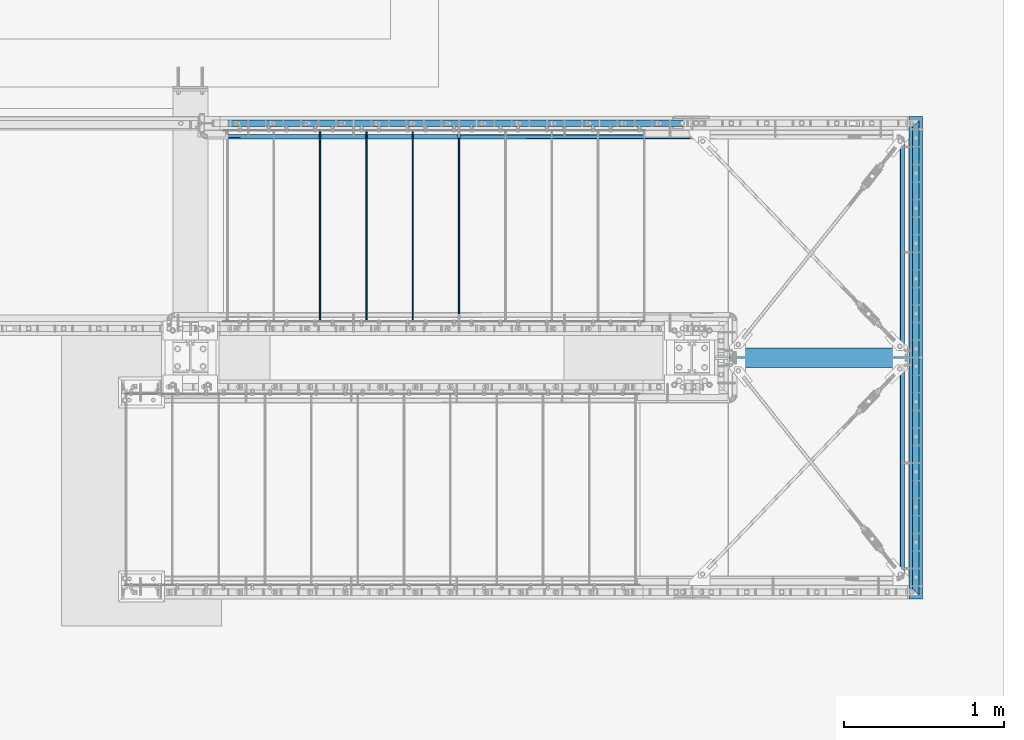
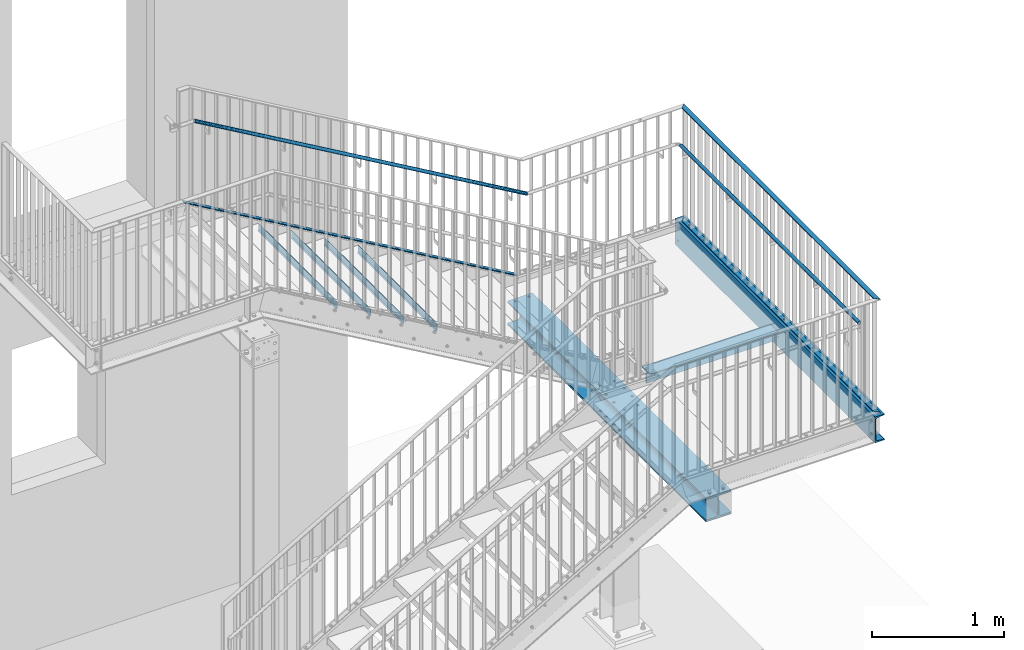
# One storey, part 16 of 145: 10 beams, 2 members, 71 openings.
"""IFC2X3 building model written with IfcOpenShell, lengths in millimetres."""

from ifc_helpers import new_model, entity, si_unit, converted_unit, frame, frame_2d, origin, origin_with_axes, origin_2d, origin_2d_with_axis, place, context, project, spatial, polyline, rectangle, circle, hollow_circle, i_section, t_section, u_section, outline, extrude, clip, halfspace, material, element, save


model = new_model("IFC2X3")

# Units and contexts
model_context = context("Model", 3, precision=1e-09, world=origin_with_axes())
ifc_project = project(units=[si_unit("LENGTHUNIT", "METRE", prefix="MILLI"), si_unit("AREAUNIT", "SQUARE_METRE"), si_unit("VOLUMEUNIT", "CUBIC_METRE"), converted_unit("PLANEANGLEUNIT", "DEGREE", entity("IfcPlaneAngleMeasure", 0.01745329), si_unit("PLANEANGLEUNIT", "RADIAN"), dimensions=[0, 0, 0, 0, 0, 0, 0])], contexts=[model_context])

# Site, building, storey
site_placement = place(None, origin_with_axes())
site = spatial("IfcSite", under=ifc_project, at=site_placement, Name="BZ1 Grund- und Mittelschule 85716 Unterschlei?heim", CompositionType="ELEMENT")
building_placement = place(site_placement, origin_with_axes())
building = spatial("IfcBuilding", under=site, at=building_placement, Name="Struktur 1", CompositionType="ELEMENT")
storey_placement = place(building_placement, origin_with_axes())
storey = spatial("IfcBuildingStorey", under=building, at=storey_placement, Name="Default Storey", CompositionType="ELEMENT", Elevation=0.0)

# Member
ifc_material_1 = material(Name="1.4301")
member_1_placement = place(None, frame((20222.090665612, -312.502, 2387.591885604), z_axis=(-0.864466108, 0.0, 0.502691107), x_axis=(0.0, 1.0, 0.0)))
element("IfcMember", 1, at=member_1_placement, inside=storey, material=ifc_material_1, Name="-", ObjectType="-", context=model_context, shape_type="Clipping", body=[
    clip(clip(extrude(hollow_circle(Radius=15.0, WallThickness=2.0, at=origin_2d()), origin(), (0.0, 0.0, 1.0), 3398.613125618), halfspace(frame((312.502, 8157.228438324, 1177.316777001), z_axis=(0.0, -0.260320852, -0.965522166), x_axis=(1.0, 0.0, 0.0)), True)), halfspace(frame((312.502, 7314.047140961, -1950.017148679), z_axis=(0.0, 0.260320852, 0.965522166), x_axis=(-1.0, 0.0, 0.0)), True)),
])

# Beam, openings
ifc_material_2 = material(Name="S235JR")
beam_1_placement = place(None, frame((21593.14472732, -185.002, 1493.6363644), z_axis=(0.0, 1.0, 0.0), x_axis=(1.0, 0.0, 0.0)))
beam_1 = element("IfcBeam", 2, at=beam_1_placement, inside=storey, material=ifc_material_2, Name="-", ObjectType="-", context=model_context, shape_type="SweptSolid", body=[
    extrude(u_section(Depth=240.0, FlangeWidth=85.0, WebThickness=9.5, FlangeThickness=13.0, FilletRadius=13.0, EdgeRadius=6.5, FlangeSlope=4.574, at=frame_2d((20.2, 0.0))), origin(), (0.0, 0.0, -1.0), 3020.0),
])
opening_1_placement = place(beam_1_placement, frame((-12.3, 0.0, -42.5), z_axis=(-1.0, 0.0, 0.0), x_axis=(0.0, 0.0, -1.0)))
element("IfcOpeningElement", 3, at=opening_1_placement, cuts=beam_1, ObjectType="Opening", context=model_context, shape_type="SweptSolid", body=[
    extrude(circle(Radius=9.001, at=frame_2d((0.0, 60.0), x_axis=(1.0, 0.0))), origin(), (0.0, 0.0, 1.0), 10.5),
])
opening_2_placement = place(beam_1_placement, frame((-12.3, 0.0, -42.5), z_axis=(-1.0, 0.0, 0.0), x_axis=(0.0, 0.0, -1.0)))
element("IfcOpeningElement", 4, at=opening_2_placement, cuts=beam_1, ObjectType="Opening", context=model_context, shape_type="SweptSolid", body=[
    extrude(circle(Radius=9.001, at=frame_2d((0.0, -60.0), x_axis=(1.0, 0.0))), origin(), (0.0, 0.0, 1.0), 10.5),
])
opening_3_placement = place(beam_1_placement, frame((-12.3, -60.0, -2986.501), z_axis=(1.0, 0.0, 0.0), x_axis=(0.0, 1.0, 0.0)))
element("IfcOpeningElement", 5, at=opening_3_placement, cuts=beam_1, ObjectType="Opening", context=model_context, shape_type="SweptSolid", body=[
    extrude(circle(Radius=9.001, at=frame_2d((0.0, 9.001), x_axis=(1.0, 0.0))), origin(), (0.0, 0.0, -1.0), 10.5),
])
opening_4_placement = place(beam_1_placement, frame((-12.3, 60.0, -2986.501), z_axis=(1.0, 0.0, 0.0), x_axis=(0.0, 1.0, 0.0)))
element("IfcOpeningElement", 6, at=opening_4_placement, cuts=beam_1, ObjectType="Opening", context=model_context, shape_type="SweptSolid", body=[
    extrude(circle(Radius=9.001, at=frame_2d((0.0, 9.001), x_axis=(1.0, 0.0))), origin(), (0.0, 0.0, -1.0), 10.5),
])
opening_5_placement = place(beam_1_placement, frame((-22.8, 30.0, -1547.999), z_axis=(-1.0, 0.0, 0.0), x_axis=(0.0, -1.0, 0.0)))
element("IfcOpeningElement", 7, at=opening_5_placement, cuts=beam_1, ObjectType="Opening", context=model_context, shape_type="SweptSolid", body=[
    extrude(circle(Radius=7.001, at=frame_2d((0.0, -7.001), x_axis=(1.0, 0.0))), origin(), (0.0, 0.0, -1.0), 10.5),
])
opening_6_placement = place(beam_1_placement, frame((-22.8, 30.0, -1457.999), z_axis=(-1.0, 0.0, 0.0), x_axis=(0.0, -1.0, 0.0)))
element("IfcOpeningElement", 8, at=opening_6_placement, cuts=beam_1, ObjectType="Opening", context=model_context, shape_type="SweptSolid", body=[
    extrude(circle(Radius=7.001, at=frame_2d((0.0, -7.001), x_axis=(1.0, 0.0))), origin(), (0.0, 0.0, -1.0), 10.5),
])
opening_7_placement = place(beam_1_placement, frame((20.2, -106.5, -1557.999), z_axis=(0.0, 1.0, 0.0), x_axis=(-1.0, 0.0, 0.0)))
element("IfcOpeningElement", 9, at=opening_7_placement, cuts=beam_1, ObjectType="Opening", context=model_context, shape_type="SweptSolid", body=[
    extrude(circle(Radius=7.001, at=frame_2d((0.0, -7.001), x_axis=(1.0, 0.0))), origin(), (0.0, 0.0, -1.0), 14.0),
])
opening_8_placement = place(beam_1_placement, frame((20.2, -106.5, -1777.999), z_axis=(0.0, 1.0, 0.0), x_axis=(-1.0, 0.0, 0.0)))
element("IfcOpeningElement", 10, at=opening_8_placement, cuts=beam_1, ObjectType="Opening", context=model_context, shape_type="SweptSolid", body=[
    extrude(circle(Radius=7.001, at=frame_2d((0.0, -7.001), x_axis=(1.0, 0.0))), origin(), (0.0, 0.0, -1.0), 14.0),
])
opening_9_placement = place(beam_1_placement, frame((20.2, -106.5, -1997.999), z_axis=(0.0, 1.0, 0.0), x_axis=(-1.0, 0.0, 0.0)))
element("IfcOpeningElement", 11, at=opening_9_placement, cuts=beam_1, ObjectType="Opening", context=model_context, shape_type="SweptSolid", body=[
    extrude(circle(Radius=7.001, at=frame_2d((0.0, -7.001), x_axis=(1.0, 0.0))), origin(), (0.0, 0.0, -1.0), 14.0),
])
opening_10_placement = place(beam_1_placement, frame((20.2, -106.5, -2217.999), z_axis=(0.0, 1.0, 0.0), x_axis=(-1.0, 0.0, 0.0)))
element("IfcOpeningElement", 12, at=opening_10_placement, cuts=beam_1, ObjectType="Opening", context=model_context, shape_type="SweptSolid", body=[
    extrude(circle(Radius=7.001, at=frame_2d((0.0, -7.001), x_axis=(1.0, 0.0))), origin(), (0.0, 0.0, -1.0), 14.0),
])
opening_11_placement = place(beam_1_placement, frame((20.2, -106.5, -2437.999), z_axis=(0.0, 1.0, 0.0), x_axis=(-1.0, 0.0, 0.0)))
element("IfcOpeningElement", 13, at=opening_11_placement, cuts=beam_1, ObjectType="Opening", context=model_context, shape_type="SweptSolid", body=[
    extrude(circle(Radius=7.001, at=frame_2d((0.0, -7.001), x_axis=(1.0, 0.0))), origin(), (0.0, 0.0, -1.0), 14.0),
])
opening_12_placement = place(beam_1_placement, frame((20.2, -106.5, -2657.999), z_axis=(0.0, 1.0, 0.0), x_axis=(-1.0, 0.0, 0.0)))
element("IfcOpeningElement", 14, at=opening_12_placement, cuts=beam_1, ObjectType="Opening", context=model_context, shape_type="SweptSolid", body=[
    extrude(circle(Radius=7.001, at=frame_2d((0.0, -7.001), x_axis=(1.0, 0.0))), origin(), (0.0, 0.0, -1.0), 14.0),
])
opening_13_placement = place(beam_1_placement, frame((20.2, -106.5, -2877.999), z_axis=(0.0, 1.0, 0.0), x_axis=(-1.0, 0.0, 0.0)))
element("IfcOpeningElement", 15, at=opening_13_placement, cuts=beam_1, ObjectType="Opening", context=model_context, shape_type="SweptSolid", body=[
    extrude(circle(Radius=7.001, at=frame_2d((0.0, -7.001), x_axis=(1.0, 0.0))), origin(), (0.0, 0.0, -1.0), 14.0),
])
opening_14_placement = place(beam_1_placement, frame((20.2, -106.5, -1447.999), z_axis=(0.0, 1.0, 0.0), x_axis=(-1.0, 0.0, 0.0)))
element("IfcOpeningElement", 16, at=opening_14_placement, cuts=beam_1, ObjectType="Opening", context=model_context, shape_type="SweptSolid", body=[
    extrude(circle(Radius=7.001, at=frame_2d((0.0, -7.001), x_axis=(1.0, 0.0))), origin(), (0.0, 0.0, -1.0), 14.0),
])
opening_15_placement = place(beam_1_placement, frame((20.2, -106.5, -1007.999), z_axis=(0.0, 1.0, 0.0), x_axis=(-1.0, 0.0, 0.0)))
element("IfcOpeningElement", 17, at=opening_15_placement, cuts=beam_1, ObjectType="Opening", context=model_context, shape_type="SweptSolid", body=[
    extrude(circle(Radius=7.001, at=frame_2d((0.0, -7.001), x_axis=(1.0, 0.0))), origin(), (0.0, 0.0, -1.0), 14.0),
])
opening_16_placement = place(beam_1_placement, frame((20.2, -106.5, -1227.999), z_axis=(0.0, 1.0, 0.0), x_axis=(-1.0, 0.0, 0.0)))
element("IfcOpeningElement", 18, at=opening_16_placement, cuts=beam_1, ObjectType="Opening", context=model_context, shape_type="SweptSolid", body=[
    extrude(circle(Radius=7.001, at=frame_2d((0.0, -7.001), x_axis=(1.0, 0.0))), origin(), (0.0, 0.0, -1.0), 14.0),
])
opening_17_placement = place(beam_1_placement, frame((20.2, -106.5, -567.999), z_axis=(0.0, 1.0, 0.0), x_axis=(-1.0, 0.0, 0.0)))
element("IfcOpeningElement", 19, at=opening_17_placement, cuts=beam_1, ObjectType="Opening", context=model_context, shape_type="SweptSolid", body=[
    extrude(circle(Radius=7.001, at=frame_2d((0.0, -7.001), x_axis=(1.0, 0.0))), origin(), (0.0, 0.0, -1.0), 14.0),
])
opening_18_placement = place(beam_1_placement, frame((20.2, -106.5, -787.999), z_axis=(0.0, 1.0, 0.0), x_axis=(-1.0, 0.0, 0.0)))
element("IfcOpeningElement", 20, at=opening_18_placement, cuts=beam_1, ObjectType="Opening", context=model_context, shape_type="SweptSolid", body=[
    extrude(circle(Radius=7.001, at=frame_2d((0.0, -7.001), x_axis=(1.0, 0.0))), origin(), (0.0, 0.0, -1.0), 14.0),
])
opening_19_placement = place(beam_1_placement, frame((20.2, -106.5, -347.999), z_axis=(0.0, 1.0, 0.0), x_axis=(-1.0, 0.0, 0.0)))
element("IfcOpeningElement", 21, at=opening_19_placement, cuts=beam_1, ObjectType="Opening", context=model_context, shape_type="SweptSolid", body=[
    extrude(circle(Radius=7.001, at=frame_2d((0.0, -7.001), x_axis=(1.0, 0.0))), origin(), (0.0, 0.0, -1.0), 14.0),
])
opening_20_placement = place(beam_1_placement, frame((20.2, -106.5, -127.999), z_axis=(0.0, 1.0, 0.0), x_axis=(-1.0, 0.0, 0.0)))
element("IfcOpeningElement", 22, at=opening_20_placement, cuts=beam_1, ObjectType="Opening", context=model_context, shape_type="SweptSolid", body=[
    extrude(circle(Radius=7.001, at=frame_2d((0.0, -7.001), x_axis=(1.0, 0.0))), origin(), (0.0, 0.0, -1.0), 14.0),
])

# Beam
beam_2_placement = place(None, frame((21613.34472732, -198.657589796, 2659.6363644), z_axis=(0.0, 1.0, 0.0), x_axis=(0.0, 0.0, 1.0)))
element("IfcBeam", 23, at=beam_2_placement, inside=storey, material=ifc_material_2, Name="-", ObjectType="-", context=model_context, shape_type="Clipping", body=[
    clip(clip(extrude(rectangle(XDim=8.0, YDim=40.0, at=origin_2d()), origin(), (0.0, 0.0, -1.0), 2992.688820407), halfspace(frame((-2659.6363644, -12387.922656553, 9424.079660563), z_axis=(0.0, 0.707106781, 0.707106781), x_axis=(0.0, -0.707106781, 0.707106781)), True)), halfspace(frame((-2659.6363644, -10692.920656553, -10721.766480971), z_axis=(0.0, 0.707106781, -0.707106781), x_axis=(0.0, 0.707106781, 0.707106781)), True)),
])

# Beam, openings
beam_3_placement = place(None, frame((21613.34472732, -198.657589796, 1617.636364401), z_axis=(0.0, 1.0, 0.0), x_axis=(0.0, 0.0, 1.0)))
beam_3 = element("IfcBeam", 24, at=beam_3_placement, inside=storey, material=ifc_material_2, Name="-", ObjectType="-", context=model_context, shape_type="Clipping", body=[
    clip(clip(extrude(rectangle(XDim=8.0, YDim=40.0, at=origin_2d()), origin(), (0.0, 0.0, -1.0), 2992.688820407), halfspace(frame((-1617.636364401, -12387.922656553, 9424.079660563), z_axis=(0.0, 0.707106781, 0.707106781), x_axis=(0.0, -0.707106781, 0.707106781)), True)), halfspace(frame((-1617.636364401, -10692.920656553, -10721.766480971), z_axis=(0.0, 0.707106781, -0.707106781), x_axis=(0.0, 0.707106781, 0.707106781)), True)),
])
opening_21_placement = place(beam_3_placement, frame((-4.5, 0.0, -1543.843410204), z_axis=(-1.0, 0.0, 0.0), x_axis=(0.0, -1.0, 0.0)))
element("IfcOpeningElement", 25, at=opening_21_placement, cuts=beam_3, ObjectType="Opening", context=model_context, shape_type="SweptSolid", body=[
    extrude(circle(Radius=7.501, at=frame_2d((0.0, -7.501), x_axis=(1.0, 0.0))), origin(), (0.0, 0.0, -1.0), 9.0),
])
opening_22_placement = place(beam_3_placement, frame((-4.5, 0.0, -1763.843410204), z_axis=(-1.0, 0.0, 0.0), x_axis=(0.0, -1.0, 0.0)))
element("IfcOpeningElement", 26, at=opening_22_placement, cuts=beam_3, ObjectType="Opening", context=model_context, shape_type="SweptSolid", body=[
    extrude(circle(Radius=7.501, at=frame_2d((0.0, -7.501), x_axis=(1.0, 0.0))), origin(), (0.0, 0.0, -1.0), 9.0),
])
opening_23_placement = place(beam_3_placement, frame((-4.5, 0.0, -1983.843410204), z_axis=(-1.0, 0.0, 0.0), x_axis=(0.0, -1.0, 0.0)))
element("IfcOpeningElement", 27, at=opening_23_placement, cuts=beam_3, ObjectType="Opening", context=model_context, shape_type="SweptSolid", body=[
    extrude(circle(Radius=7.501, at=frame_2d((0.0, -7.501), x_axis=(1.0, 0.0))), origin(), (0.0, 0.0, -1.0), 9.0),
])
opening_24_placement = place(beam_3_placement, frame((-4.5, 0.0, -2423.843410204), z_axis=(-1.0, 0.0, 0.0), x_axis=(0.0, -1.0, 0.0)))
element("IfcOpeningElement", 28, at=opening_24_placement, cuts=beam_3, ObjectType="Opening", context=model_context, shape_type="SweptSolid", body=[
    extrude(circle(Radius=7.501, at=frame_2d((0.0, -7.501), x_axis=(1.0, 0.0))), origin(), (0.0, 0.0, -1.0), 9.0),
])
opening_25_placement = place(beam_3_placement, frame((-4.5, 0.0, -2203.843410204), z_axis=(-1.0, 0.0, 0.0), x_axis=(0.0, -1.0, 0.0)))
element("IfcOpeningElement", 29, at=opening_25_placement, cuts=beam_3, ObjectType="Opening", context=model_context, shape_type="SweptSolid", body=[
    extrude(circle(Radius=7.501, at=frame_2d((0.0, -7.501), x_axis=(1.0, 0.0))), origin(), (0.0, 0.0, -1.0), 9.0),
])
opening_26_placement = place(beam_3_placement, frame((-4.5, 0.0, -2863.843410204), z_axis=(-1.0, 0.0, 0.0), x_axis=(0.0, -1.0, 0.0)))
element("IfcOpeningElement", 30, at=opening_26_placement, cuts=beam_3, ObjectType="Opening", context=model_context, shape_type="SweptSolid", body=[
    extrude(circle(Radius=7.501, at=frame_2d((0.0, -7.501), x_axis=(1.0, 0.0))), origin(), (0.0, 0.0, -1.0), 9.0),
])
opening_27_placement = place(beam_3_placement, frame((-4.5, 0.0, -2643.843410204), z_axis=(-1.0, 0.0, 0.0), x_axis=(0.0, -1.0, 0.0)))
element("IfcOpeningElement", 31, at=opening_27_placement, cuts=beam_3, ObjectType="Opening", context=model_context, shape_type="SweptSolid", body=[
    extrude(circle(Radius=7.501, at=frame_2d((0.0, -7.501), x_axis=(1.0, 0.0))), origin(), (0.0, 0.0, -1.0), 9.0),
])
opening_28_placement = place(beam_3_placement, frame((-4.5, 0.0, -1433.843410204), z_axis=(-1.0, 0.0, 0.0), x_axis=(0.0, -1.0, 0.0)))
element("IfcOpeningElement", 32, at=opening_28_placement, cuts=beam_3, ObjectType="Opening", context=model_context, shape_type="SweptSolid", body=[
    extrude(circle(Radius=7.501, at=frame_2d((0.0, -7.501), x_axis=(1.0, 0.0))), origin(), (0.0, 0.0, -1.0), 9.0),
])
opening_29_placement = place(beam_3_placement, frame((-4.5, 0.0, -1213.843410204), z_axis=(-1.0, 0.0, 0.0), x_axis=(0.0, -1.0, 0.0)))
element("IfcOpeningElement", 33, at=opening_29_placement, cuts=beam_3, ObjectType="Opening", context=model_context, shape_type="SweptSolid", body=[
    extrude(circle(Radius=7.501, at=frame_2d((0.0, -7.501), x_axis=(1.0, 0.0))), origin(), (0.0, 0.0, -1.0), 9.0),
])
opening_30_placement = place(beam_3_placement, frame((-4.5, 0.0, -993.843410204), z_axis=(-1.0, 0.0, 0.0), x_axis=(0.0, -1.0, 0.0)))
element("IfcOpeningElement", 34, at=opening_30_placement, cuts=beam_3, ObjectType="Opening", context=model_context, shape_type="SweptSolid", body=[
    extrude(circle(Radius=7.501, at=frame_2d((0.0, -7.501), x_axis=(1.0, 0.0))), origin(), (0.0, 0.0, -1.0), 9.0),
])
opening_31_placement = place(beam_3_placement, frame((-4.5, 0.0, -553.843410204), z_axis=(-1.0, 0.0, 0.0), x_axis=(0.0, -1.0, 0.0)))
element("IfcOpeningElement", 35, at=opening_31_placement, cuts=beam_3, ObjectType="Opening", context=model_context, shape_type="SweptSolid", body=[
    extrude(circle(Radius=7.501, at=frame_2d((0.0, -7.501), x_axis=(1.0, 0.0))), origin(), (0.0, 0.0, -1.0), 9.0),
])
opening_32_placement = place(beam_3_placement, frame((-4.5, 0.0, -773.843410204), z_axis=(-1.0, 0.0, 0.0), x_axis=(0.0, -1.0, 0.0)))
element("IfcOpeningElement", 36, at=opening_32_placement, cuts=beam_3, ObjectType="Opening", context=model_context, shape_type="SweptSolid", body=[
    extrude(circle(Radius=7.501, at=frame_2d((0.0, -7.501), x_axis=(1.0, 0.0))), origin(), (0.0, 0.0, -1.0), 9.0),
])
opening_33_placement = place(beam_3_placement, frame((-4.5, 0.0, -333.843410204), z_axis=(-1.0, 0.0, 0.0), x_axis=(0.0, -1.0, 0.0)))
element("IfcOpeningElement", 37, at=opening_33_placement, cuts=beam_3, ObjectType="Opening", context=model_context, shape_type="SweptSolid", body=[
    extrude(circle(Radius=7.501, at=frame_2d((0.0, -7.501), x_axis=(1.0, 0.0))), origin(), (0.0, 0.0, -1.0), 9.0),
])
opening_34_placement = place(beam_3_placement, frame((-4.5, 0.0, -113.843410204), z_axis=(-1.0, 0.0, 0.0), x_axis=(0.0, -1.0, 0.0)))
element("IfcOpeningElement", 38, at=opening_34_placement, cuts=beam_3, ObjectType="Opening", context=model_context, shape_type="SweptSolid", body=[
    extrude(circle(Radius=7.501, at=frame_2d((0.0, -7.501), x_axis=(1.0, 0.0))), origin(), (0.0, 0.0, -1.0), 9.0),
])

# Beam
beam_4_placement = place(None, frame((21528.34472732, -3044.002, 2398.636364), z_axis=(0.0, -1.0, 0.0), x_axis=(0.0, 0.0, -1.0)))
element("IfcBeam", 39, at=beam_4_placement, inside=storey, material=ifc_material_1, Name="-", ObjectType="-", context=model_context, shape_type="SweptSolid", body=[
    extrude(hollow_circle(Radius=15.0, WallThickness=2.0, at=origin_2d()), origin(), (0.0, 0.0, -1.0), 2698.0),
])

# Beam, openings
beam_5_placement = place(None, frame((20210.84472732, -195.002, 1263.636364), z_axis=(0.0, 1.0, 0.0), x_axis=(1.0, 0.0, 0.0)))
beam_5 = element("IfcBeam", 40, at=beam_5_placement, inside=storey, material=ifc_material_2, Name="-", ObjectType="-", context=model_context, shape_type="SweptSolid", body=[
    extrude(i_section(OverallWidth=220.0, OverallDepth=220.0, WebThickness=9.5, FlangeThickness=16.0, FilletRadius=18.0, at=origin_2d()), origin(), (0.0, 0.0, -1.0), 3000.0),
])
opening_35_placement = place(beam_5_placement, frame((80.0, -110.5, -1548.999), z_axis=(0.0, -1.0, 0.0), x_axis=(1.0, 0.0, 0.0)))
element("IfcOpeningElement", 41, at=opening_35_placement, cuts=beam_5, ObjectType="Opening", context=model_context, shape_type="SweptSolid", body=[
    extrude(circle(Radius=11.001, at=frame_2d((0.0, -11.001), x_axis=(1.0, 0.0))), origin(), (0.0, 0.0, -1.0), 17.0),
])
opening_36_placement = place(beam_5_placement, frame((80.0, -110.5, -1428.999), z_axis=(0.0, -1.0, 0.0), x_axis=(1.0, 0.0, 0.0)))
element("IfcOpeningElement", 42, at=opening_36_placement, cuts=beam_5, ObjectType="Opening", context=model_context, shape_type="SweptSolid", body=[
    extrude(circle(Radius=11.001, at=frame_2d((0.0, -11.001), x_axis=(1.0, 0.0))), origin(), (0.0, 0.0, -1.0), 17.0),
])
opening_37_placement = place(beam_5_placement, frame((-80.0, -110.5, -1548.999), z_axis=(0.0, -1.0, 0.0), x_axis=(1.0, 0.0, 0.0)))
element("IfcOpeningElement", 43, at=opening_37_placement, cuts=beam_5, ObjectType="Opening", context=model_context, shape_type="SweptSolid", body=[
    extrude(circle(Radius=11.001, at=frame_2d((0.0, -11.001), x_axis=(1.0, 0.0))), origin(), (0.0, 0.0, -1.0), 17.0),
])
opening_38_placement = place(beam_5_placement, frame((-80.0, -110.5, -1428.999), z_axis=(0.0, -1.0, 0.0), x_axis=(1.0, 0.0, 0.0)))
element("IfcOpeningElement", 44, at=opening_38_placement, cuts=beam_5, ObjectType="Opening", context=model_context, shape_type="SweptSolid", body=[
    extrude(circle(Radius=11.001, at=frame_2d((0.0, -11.001), x_axis=(1.0, 0.0))), origin(), (0.0, 0.0, -1.0), 17.0),
])
opening_39_placement = place(beam_5_placement, frame((5.25, 65.0, -2989.0), z_axis=(-1.0, 0.0, 0.0), x_axis=(0.0, 0.0, 1.0)))
element("IfcOpeningElement", 45, at=opening_39_placement, cuts=beam_5, ObjectType="Opening", context=model_context, shape_type="SweptSolid", body=[
    extrude(circle(Radius=6.001, at=origin_2d_with_axis()), origin(), (0.0, 0.0, 1.0), 10.5),
])
opening_40_placement = place(beam_5_placement, frame((5.25, -65.0, -2989.0), z_axis=(-1.0, 0.0, 0.0), x_axis=(0.0, 0.0, 1.0)))
element("IfcOpeningElement", 46, at=opening_40_placement, cuts=beam_5, ObjectType="Opening", context=model_context, shape_type="SweptSolid", body=[
    extrude(circle(Radius=6.001, at=origin_2d_with_axis()), origin(), (0.0, 0.0, 1.0), 10.5),
])
opening_41_placement = place(beam_5_placement, frame((0.0, -93.5, -1682.5), z_axis=(0.0, -1.0, 0.0), x_axis=(1.0, 0.0, 0.0)))
element("IfcOpeningElement", 47, at=opening_41_placement, cuts=beam_5, ObjectType="Opening", context=model_context, shape_type="SweptSolid", body=[
    extrude(circle(Radius=9.001, at=frame_2d((60.0, 0.0), x_axis=(1.0, 0.0))), origin(), (0.0, 0.0, 1.0), 17.0),
])
opening_42_placement = place(beam_5_placement, frame((0.0, -93.5, -1682.5), z_axis=(0.0, -1.0, 0.0), x_axis=(1.0, 0.0, 0.0)))
element("IfcOpeningElement", 48, at=opening_42_placement, cuts=beam_5, ObjectType="Opening", context=model_context, shape_type="SweptSolid", body=[
    extrude(circle(Radius=9.001, at=frame_2d((-60.0, 0.0), x_axis=(1.0, 0.0))), origin(), (0.0, 0.0, 1.0), 17.0),
])
opening_43_placement = place(beam_5_placement, frame((0.0, -93.5, -1317.5), z_axis=(0.0, -1.0, 0.0), x_axis=(1.0, 0.0, 0.0)))
element("IfcOpeningElement", 49, at=opening_43_placement, cuts=beam_5, ObjectType="Opening", context=model_context, shape_type="SweptSolid", body=[
    extrude(circle(Radius=9.001, at=frame_2d((60.0, 0.0), x_axis=(1.0, 0.0))), origin(), (0.0, 0.0, 1.0), 17.0),
])
opening_44_placement = place(beam_5_placement, frame((0.0, -93.5, -1317.5), z_axis=(0.0, -1.0, 0.0), x_axis=(1.0, 0.0, 0.0)))
element("IfcOpeningElement", 50, at=opening_44_placement, cuts=beam_5, ObjectType="Opening", context=model_context, shape_type="SweptSolid", body=[
    extrude(circle(Radius=9.001, at=frame_2d((-60.0, 0.0), x_axis=(1.0, 0.0))), origin(), (0.0, 0.0, 1.0), 17.0),
])
opening_45_placement = place(beam_5_placement, frame((0.0, 110.5, -1355.0), z_axis=(0.0, -1.0, 0.0), x_axis=(0.0, 0.0, -1.0)))
element("IfcOpeningElement", 51, at=opening_45_placement, cuts=beam_5, ObjectType="Opening", context=model_context, shape_type="SweptSolid", body=[
    extrude(circle(Radius=11.001, at=frame_2d((0.0, 80.0), x_axis=(1.0, 0.0))), origin(), (0.0, 0.0, 1.0), 17.0),
])
opening_46_placement = place(beam_5_placement, frame((0.0, 110.5, -1355.0), z_axis=(0.0, -1.0, 0.0), x_axis=(0.0, 0.0, -1.0)))
element("IfcOpeningElement", 52, at=opening_46_placement, cuts=beam_5, ObjectType="Opening", context=model_context, shape_type="SweptSolid", body=[
    extrude(circle(Radius=11.001, at=frame_2d((0.0, -80.0), x_axis=(1.0, 0.0))), origin(), (0.0, 0.0, 1.0), 17.0),
])
opening_47_placement = place(beam_5_placement, frame((80.0, 110.5, -1656.001), z_axis=(0.0, 1.0, 0.0), x_axis=(-1.0, 0.0, 0.0)))
element("IfcOpeningElement", 53, at=opening_47_placement, cuts=beam_5, ObjectType="Opening", context=model_context, shape_type="SweptSolid", body=[
    extrude(circle(Radius=11.001, at=frame_2d((0.0, 11.001), x_axis=(1.0, 0.0))), origin(), (0.0, 0.0, -1.0), 17.0),
])
opening_48_placement = place(beam_5_placement, frame((-80.0, 110.5, -1656.001), z_axis=(0.0, 1.0, 0.0), x_axis=(-1.0, 0.0, 0.0)))
element("IfcOpeningElement", 54, at=opening_48_placement, cuts=beam_5, ObjectType="Opening", context=model_context, shape_type="SweptSolid", body=[
    extrude(circle(Radius=11.001, at=frame_2d((0.0, 11.001), x_axis=(1.0, 0.0))), origin(), (0.0, 0.0, -1.0), 17.0),
])
opening_49_placement = place(beam_5_placement, frame((0.0, -93.5, -2967.5), z_axis=(0.0, -1.0, 0.0), x_axis=(1.0, 0.0, 0.0)))
element("IfcOpeningElement", 55, at=opening_49_placement, cuts=beam_5, ObjectType="Opening", context=model_context, shape_type="SweptSolid", body=[
    extrude(circle(Radius=9.001, at=frame_2d((60.0, 0.0), x_axis=(1.0, 0.0))), origin(), (0.0, 0.0, 1.0), 17.0),
])
opening_50_placement = place(beam_5_placement, frame((0.0, -93.5, -2967.5), z_axis=(0.0, -1.0, 0.0), x_axis=(1.0, 0.0, 0.0)))
element("IfcOpeningElement", 56, at=opening_50_placement, cuts=beam_5, ObjectType="Opening", context=model_context, shape_type="SweptSolid", body=[
    extrude(circle(Radius=9.001, at=frame_2d((-60.0, 0.0), x_axis=(1.0, 0.0))), origin(), (0.0, 0.0, 1.0), 17.0),
])
opening_51_placement = place(beam_5_placement, frame((0.0, -93.5, -32.5), z_axis=(0.0, -1.0, 0.0), x_axis=(1.0, 0.0, 0.0)))
element("IfcOpeningElement", 57, at=opening_51_placement, cuts=beam_5, ObjectType="Opening", context=model_context, shape_type="SweptSolid", body=[
    extrude(circle(Radius=9.001, at=frame_2d((60.0, 0.0), x_axis=(1.0, 0.0))), origin(), (0.0, 0.0, 1.0), 17.0),
])
opening_52_placement = place(beam_5_placement, frame((0.0, -93.5, -32.5), z_axis=(0.0, -1.0, 0.0), x_axis=(1.0, 0.0, 0.0)))
element("IfcOpeningElement", 58, at=opening_52_placement, cuts=beam_5, ObjectType="Opening", context=model_context, shape_type="SweptSolid", body=[
    extrude(circle(Radius=9.001, at=frame_2d((-60.0, 0.0), x_axis=(1.0, 0.0))), origin(), (0.0, 0.0, 1.0), 17.0),
])
opening_53_placement = place(beam_5_placement, frame((0.0, 110.5, -1500.0), z_axis=(0.0, -1.0, 0.0), x_axis=(0.0, 0.0, -1.0)))
element("IfcOpeningElement", 59, at=opening_53_placement, cuts=beam_5, ObjectType="Opening", context=model_context, shape_type="SweptSolid", body=[
    extrude(circle(Radius=11.001, at=frame_2d((60.0, 80.0), x_axis=(1.0, 0.0))), origin(), (0.0, 0.0, 1.0), 17.0),
])
opening_54_placement = place(beam_5_placement, frame((0.0, 110.5, -1500.0), z_axis=(0.0, -1.0, 0.0), x_axis=(0.0, 0.0, -1.0)))
element("IfcOpeningElement", 60, at=opening_54_placement, cuts=beam_5, ObjectType="Opening", context=model_context, shape_type="SweptSolid", body=[
    extrude(circle(Radius=11.001, at=frame_2d((-60.0, 80.0), x_axis=(1.0, 0.0))), origin(), (0.0, 0.0, 1.0), 17.0),
])
opening_55_placement = place(beam_5_placement, frame((0.0, 110.5, -1500.0), z_axis=(0.0, -1.0, 0.0), x_axis=(0.0, 0.0, -1.0)))
element("IfcOpeningElement", 61, at=opening_55_placement, cuts=beam_5, ObjectType="Opening", context=model_context, shape_type="SweptSolid", body=[
    extrude(circle(Radius=11.001, at=frame_2d((60.0, -80.0), x_axis=(1.0, 0.0))), origin(), (0.0, 0.0, 1.0), 17.0),
])
opening_56_placement = place(beam_5_placement, frame((0.0, 110.5, -1500.0), z_axis=(0.0, -1.0, 0.0), x_axis=(0.0, 0.0, -1.0)))
element("IfcOpeningElement", 62, at=opening_56_placement, cuts=beam_5, ObjectType="Opening", context=model_context, shape_type="SweptSolid", body=[
    extrude(circle(Radius=11.001, at=frame_2d((-60.0, -80.0), x_axis=(1.0, 0.0))), origin(), (0.0, 0.0, 1.0), 17.0),
])
opening_57_placement = place(beam_5_placement, frame((5.25, -65.0, -4.999), z_axis=(1.0, 0.0, 0.0), x_axis=(0.0, 1.0, 0.0)))
element("IfcOpeningElement", 63, at=opening_57_placement, cuts=beam_5, ObjectType="Opening", context=model_context, shape_type="SweptSolid", body=[
    extrude(circle(Radius=6.001, at=frame_2d((0.0, -6.001), x_axis=(1.0, 0.0))), origin(), (0.0, 0.0, -1.0), 10.5),
])
opening_58_placement = place(beam_5_placement, frame((5.25, 65.0, -4.999), z_axis=(1.0, 0.0, 0.0), x_axis=(0.0, 1.0, 0.0)))
element("IfcOpeningElement", 64, at=opening_58_placement, cuts=beam_5, ObjectType="Opening", context=model_context, shape_type="SweptSolid", body=[
    extrude(circle(Radius=6.001, at=frame_2d((0.0, -6.001), x_axis=(1.0, 0.0))), origin(), (0.0, 0.0, -1.0), 10.5),
])

# Member, openings
member_2_placement = place(None, frame((20174.891483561, -227.502, 1607.017315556), z_axis=(0.864466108, 0.0, -0.502691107), x_axis=(-0.502691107, 0.0, -0.864466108)))
member_2 = element("IfcMember", 65, at=member_2_placement, inside=storey, material=ifc_material_2, Name="-", ObjectType="-", context=model_context, shape_type="Clipping", body=[
    clip(clip(extrude(rectangle(XDim=8.0, YDim=40.0, at=origin_2d()), origin(), (0.0, 0.0, -1.0), 3396.921412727), halfspace(frame((7417.475228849, 227.502, -1375.921150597), z_axis=(-0.260320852, 0.0, 0.965522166), x_axis=(0.0, 1.0, 0.0)), True)), halfspace(frame((6574.293706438, 227.502, 1751.413609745), z_axis=(0.260320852, 0.0, -0.965522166), x_axis=(0.0, -1.0, 0.0)), True)),
])
opening_59_placement = place(member_2_placement, frame((4.5, 0.0, -2992.065784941), z_axis=(-1.0, 0.0, 0.0), x_axis=(0.0, 0.0, -1.0)))
element("IfcOpeningElement", 66, at=opening_59_placement, cuts=member_2, ObjectType="Opening", context=model_context, shape_type="SweptSolid", body=[
    extrude(circle(Radius=7.501, at=origin_2d_with_axis()), origin(), (0.0, 0.0, 1.0), 9.0),
])
opening_60_placement = place(member_2_placement, frame((4.5, 0.0, -2483.080529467), z_axis=(-1.0, 0.0, 0.0), x_axis=(0.0, 0.0, -1.0)))
element("IfcOpeningElement", 67, at=opening_60_placement, cuts=member_2, ObjectType="Opening", context=model_context, shape_type="SweptSolid", body=[
    extrude(circle(Radius=7.501, at=origin_2d_with_axis()), origin(), (0.0, 0.0, 1.0), 9.0),
])
opening_61_placement = place(member_2_placement, frame((4.5, 0.0, -1974.096437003), z_axis=(-1.0, 0.0, 0.0), x_axis=(0.0, 0.0, -1.0)))
element("IfcOpeningElement", 68, at=opening_61_placement, cuts=member_2, ObjectType="Opening", context=model_context, shape_type="SweptSolid", body=[
    extrude(circle(Radius=7.501, at=origin_2d_with_axis()), origin(), (0.0, 0.0, 1.0), 9.0),
])
opening_62_placement = place(member_2_placement, frame((4.5, 0.0, -701.633007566), z_axis=(-1.0, 0.0, 0.0), x_axis=(0.0, 0.0, -1.0)))
element("IfcOpeningElement", 69, at=opening_62_placement, cuts=member_2, ObjectType="Opening", context=model_context, shape_type="SweptSolid", body=[
    extrude(circle(Radius=7.501, at=origin_2d_with_axis()), origin(), (0.0, 0.0, 1.0), 9.0),
])
opening_63_placement = place(member_2_placement, frame((4.5, 0.0, -1465.110600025), z_axis=(-1.0, 0.0, 0.0), x_axis=(0.0, 0.0, -1.0)))
element("IfcOpeningElement", 70, at=opening_63_placement, cuts=member_2, ObjectType="Opening", context=model_context, shape_type="SweptSolid", body=[
    extrude(circle(Radius=7.501, at=origin_2d_with_axis()), origin(), (0.0, 0.0, 1.0), 9.0),
])
opening_64_placement = place(member_2_placement, frame((4.5, 0.0, -192.647752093), z_axis=(-1.0, 0.0, 0.0), x_axis=(0.0, 0.0, -1.0)))
element("IfcOpeningElement", 71, at=opening_64_placement, cuts=member_2, ObjectType="Opening", context=model_context, shape_type="SweptSolid", body=[
    extrude(circle(Radius=7.501, at=origin_2d_with_axis()), origin(), (0.0, 0.0, 1.0), 9.0),
])
opening_65_placement = place(member_2_placement, frame((4.5, 0.0, -447.140670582), z_axis=(-1.0, 0.0, 0.0), x_axis=(0.0, 0.0, -1.0)))
element("IfcOpeningElement", 72, at=opening_65_placement, cuts=member_2, ObjectType="Opening", context=model_context, shape_type="SweptSolid", body=[
    extrude(circle(Radius=7.501, at=origin_2d_with_axis()), origin(), (0.0, 0.0, 1.0), 9.0),
])
opening_66_placement = place(member_2_placement, frame((4.5, 0.0, -3246.55870343), z_axis=(-1.0, 0.0, 0.0), x_axis=(0.0, 0.0, -1.0)))
element("IfcOpeningElement", 73, at=opening_66_placement, cuts=member_2, ObjectType="Opening", context=model_context, shape_type="SweptSolid", body=[
    extrude(circle(Radius=7.501, at=origin_2d_with_axis()), origin(), (0.0, 0.0, 1.0), 9.0),
])
opening_67_placement = place(member_2_placement, frame((4.5, 0.0, -1210.61826304), z_axis=(-1.0, 0.0, 0.0), x_axis=(0.0, 0.0, -1.0)))
element("IfcOpeningElement", 74, at=opening_67_placement, cuts=member_2, ObjectType="Opening", context=model_context, shape_type="SweptSolid", body=[
    extrude(circle(Radius=7.501, at=origin_2d_with_axis()), origin(), (0.0, 0.0, 1.0), 9.0),
])
opening_68_placement = place(member_2_placement, frame((4.5, 0.0, -2228.588773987), z_axis=(-1.0, 0.0, 0.0), x_axis=(0.0, 0.0, -1.0)))
element("IfcOpeningElement", 75, at=opening_68_placement, cuts=member_2, ObjectType="Opening", context=model_context, shape_type="SweptSolid", body=[
    extrude(circle(Radius=7.501, at=origin_2d_with_axis()), origin(), (0.0, 0.0, 1.0), 9.0),
])
opening_69_placement = place(member_2_placement, frame((4.5, 0.0, -2737.572866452), z_axis=(-1.0, 0.0, 0.0), x_axis=(0.0, 0.0, -1.0)))
element("IfcOpeningElement", 76, at=opening_69_placement, cuts=member_2, ObjectType="Opening", context=model_context, shape_type="SweptSolid", body=[
    extrude(circle(Radius=7.501, at=origin_2d_with_axis()), origin(), (0.0, 0.0, 1.0), 9.0),
])
opening_70_placement = place(member_2_placement, frame((4.5, 0.0, -1719.603518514), z_axis=(-1.0, 0.0, 0.0), x_axis=(0.0, 0.0, -1.0)))
element("IfcOpeningElement", 77, at=opening_70_placement, cuts=member_2, ObjectType="Opening", context=model_context, shape_type="SweptSolid", body=[
    extrude(circle(Radius=7.501, at=origin_2d_with_axis()), origin(), (0.0, 0.0, 1.0), 9.0),
])
opening_71_placement = place(member_2_placement, frame((4.5, 0.0, -956.125344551), z_axis=(-1.0, 0.0, 0.0), x_axis=(0.0, 0.0, -1.0)))
element("IfcOpeningElement", 78, at=opening_71_placement, cuts=member_2, ObjectType="Opening", context=model_context, shape_type="SweptSolid", body=[
    extrude(circle(Radius=7.501, at=origin_2d_with_axis()), origin(), (0.0, 0.0, 1.0), 9.0),
])

# Beams
for number, where, z_axis, x_axis in (
    (79, (17887.1419848, -273.002, 2912.727273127), (0.0, 1.0, 0.0), (-1.0, 0.0, 0.0)),
    (80, (18177.1419848, -273.002, 2744.090909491), (0.0, 1.0, 0.0), (-1.0, 0.0, 0.0)),
    (81, (18757.1419848, -273.002, 2406.818182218), (0.0, 1.0, 0.0), (-1.0, 0.0, 0.0)),
    (82, (18467.1419848, -273.002, 2575.454545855), (0.0, 1.0, 0.0), (-1.0, 0.0, 0.0)),
):
    element("IfcBeam", number, at=place(None, frame(where, z_axis=z_axis, x_axis=x_axis)), inside=storey, material=ifc_material_2, Name="-", ObjectType="-", context=model_context, shape_type="SweptSolid", body=[
        extrude(outline(polyline([(0.0, 0.0), (0.0, -57.009618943), (7.5, -70.0), (9.232050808, -69.0), (2.0, -56.473720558), (2.0, 0.0), (0.0, 0.0)])), origin(), (0.0, 0.0, -1.0), 1194.0),
    ])
beam_6_placement = place(None, frame((21560.84472732, -1695.002, 1490.8363644), z_axis=(1.0, 0.0, 0.0), x_axis=(0.0, 1.0, 0.0)))
element("IfcBeam", 83, at=beam_6_placement, inside=storey, material=ifc_material_2, Name="-", ObjectType="-", context=model_context, shape_type="SweptSolid", body=[
    extrude(t_section(Depth=120.0, FlangeWidth=120.0, WebThickness=13.0, FlangeThickness=13.0, FilletRadius=13.0, FlangeEdgeRadius=6.5, WebEdgeRadius=3.0, WebSlope=1.1457628, FlangeSlope=1.1457628, at=frame_2d((0.0, -27.2))), origin(), (0.0, 0.0, -1.0), 1115.0),
])

save(model, "model.ifc")
